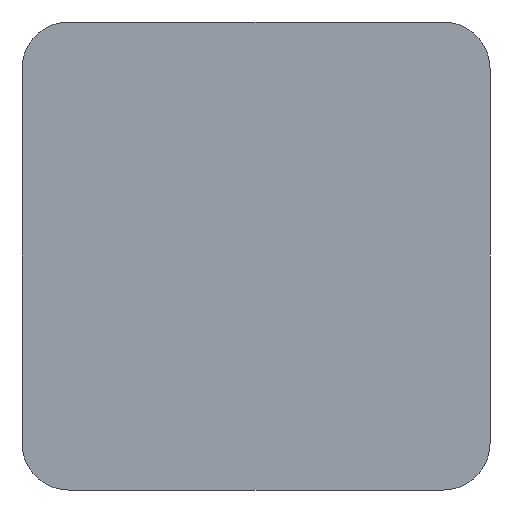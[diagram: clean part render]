
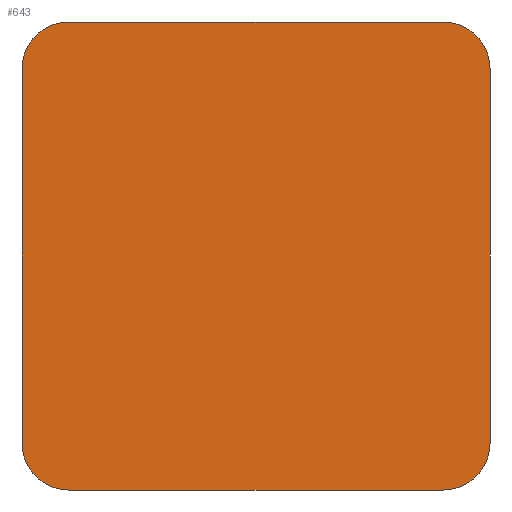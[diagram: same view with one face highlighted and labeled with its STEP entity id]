
A CAD part, front view. The second image highlights one B-rep face of the part: STEP entity #643.
In plain terms, the highlighted planar face has unit normal (0, -1, 0).
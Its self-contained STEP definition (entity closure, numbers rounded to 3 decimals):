
#22 = VERTEX_POINT('',#23);
#23 = CARTESIAN_POINT('',(25.,13.2,-20.));
#32 = PLANE('',#33);
#33 = AXIS2_PLACEMENT_3D('',#34,#35,#36);
#34 = CARTESIAN_POINT('',(25.,13.2,-20.));
#35 = DIRECTION('',(1.,-0.,0.));
#36 = DIRECTION('',(0.,0.,1.));
#44 = CYLINDRICAL_SURFACE('',#45,5.);
#45 = AXIS2_PLACEMENT_3D('',#46,#47,#48);
#46 = CARTESIAN_POINT('',(20.,13.2,-20.));
#47 = DIRECTION('',(-0.,-1.,0.));
#48 = DIRECTION('',(-1.,0.,0.));
#85 = VERTEX_POINT('',#86);
#86 = CARTESIAN_POINT('',(25.,13.2,20.));
#100 = CYLINDRICAL_SURFACE('',#101,5.);
#101 = AXIS2_PLACEMENT_3D('',#102,#103,#104);
#102 = CARTESIAN_POINT('',(20.,13.2,20.));
#103 = DIRECTION('',(-0.,-1.,0.));
#104 = DIRECTION('',(-1.,0.,0.));
#112 = EDGE_CURVE('',#22,#85,#113,.T.);
#113 = SURFACE_CURVE('',#114,(#118,#125),.PCURVE_S1.);
#114 = LINE('',#115,#116);
#115 = CARTESIAN_POINT('',(25.,13.2,0.));
#116 = VECTOR('',#117,1.);
#117 = DIRECTION('',(0.,0.,1.));
#118 = PCURVE('',#32,#119);
#119 = DEFINITIONAL_REPRESENTATION('',(#120),#124);
#120 = LINE('',#121,#122);
#121 = CARTESIAN_POINT('',(20.,0.));
#122 = VECTOR('',#123,1.);
#123 = DIRECTION('',(1.,0.));
#124 = ( GEOMETRIC_REPRESENTATION_CONTEXT(2) 
PARAMETRIC_REPRESENTATION_CONTEXT() REPRESENTATION_CONTEXT('2D SPACE',''
  ) );
#125 = PCURVE('',#126,#131);
#126 = PLANE('',#127);
#127 = AXIS2_PLACEMENT_3D('',#128,#129,#130);
#128 = CARTESIAN_POINT('',(0.,13.2,0.));
#129 = DIRECTION('',(0.,1.,0.));
#130 = DIRECTION('',(-1.,0.,0.));
#131 = DEFINITIONAL_REPRESENTATION('',(#132),#136);
#132 = LINE('',#133,#134);
#133 = CARTESIAN_POINT('',(-25.,0.));
#134 = VECTOR('',#135,1.);
#135 = DIRECTION('',(0.,1.));
#136 = ( GEOMETRIC_REPRESENTATION_CONTEXT(2) 
PARAMETRIC_REPRESENTATION_CONTEXT() REPRESENTATION_CONTEXT('2D SPACE',''
  ) );
#142 = VERTEX_POINT('',#143);
#143 = CARTESIAN_POINT('',(20.,13.2,25.));
#159 = PLANE('',#160);
#160 = AXIS2_PLACEMENT_3D('',#161,#162,#163);
#161 = CARTESIAN_POINT('',(20.,13.2,25.));
#162 = DIRECTION('',(0.,0.,1.));
#163 = DIRECTION('',(-1.,0.,0.));
#194 = EDGE_CURVE('',#142,#85,#195,.T.);
#195 = SURFACE_CURVE('',#196,(#201,#208),.PCURVE_S1.);
#196 = CIRCLE('',#197,5.);
#197 = AXIS2_PLACEMENT_3D('',#198,#199,#200);
#198 = CARTESIAN_POINT('',(20.,13.2,20.));
#199 = DIRECTION('',(0.,1.,-0.));
#200 = DIRECTION('',(-1.,0.,0.));
#201 = PCURVE('',#100,#202);
#202 = DEFINITIONAL_REPRESENTATION('',(#203),#207);
#203 = LINE('',#204,#205);
#204 = CARTESIAN_POINT('',(-0.,0.));
#205 = VECTOR('',#206,1.);
#206 = DIRECTION('',(-1.,0.));
#207 = ( GEOMETRIC_REPRESENTATION_CONTEXT(2) 
PARAMETRIC_REPRESENTATION_CONTEXT() REPRESENTATION_CONTEXT('2D SPACE',''
  ) );
#208 = PCURVE('',#126,#209);
#209 = DEFINITIONAL_REPRESENTATION('',(#210),#214);
#210 = CIRCLE('',#211,5.);
#211 = AXIS2_PLACEMENT_2D('',#212,#213);
#212 = CARTESIAN_POINT('',(-20.,20.));
#213 = DIRECTION('',(1.,0.));
#214 = ( GEOMETRIC_REPRESENTATION_CONTEXT(2) 
PARAMETRIC_REPRESENTATION_CONTEXT() REPRESENTATION_CONTEXT('2D SPACE',''
  ) );
#245 = VERTEX_POINT('',#246);
#246 = CARTESIAN_POINT('',(20.,13.2,-25.));
#260 = PLANE('',#261);
#261 = AXIS2_PLACEMENT_3D('',#262,#263,#264);
#262 = CARTESIAN_POINT('',(20.,13.2,-25.));
#263 = DIRECTION('',(0.,0.,1.));
#264 = DIRECTION('',(-1.,0.,0.));
#272 = EDGE_CURVE('',#22,#245,#273,.T.);
#273 = SURFACE_CURVE('',#274,(#279,#286),.PCURVE_S1.);
#274 = CIRCLE('',#275,5.);
#275 = AXIS2_PLACEMENT_3D('',#276,#277,#278);
#276 = CARTESIAN_POINT('',(20.,13.2,-20.));
#277 = DIRECTION('',(0.,1.,-0.));
#278 = DIRECTION('',(-1.,0.,0.));
#279 = PCURVE('',#44,#280);
#280 = DEFINITIONAL_REPRESENTATION('',(#281),#285);
#281 = LINE('',#282,#283);
#282 = CARTESIAN_POINT('',(-0.,0.));
#283 = VECTOR('',#284,1.);
#284 = DIRECTION('',(-1.,0.));
#285 = ( GEOMETRIC_REPRESENTATION_CONTEXT(2) 
PARAMETRIC_REPRESENTATION_CONTEXT() REPRESENTATION_CONTEXT('2D SPACE',''
  ) );
#286 = PCURVE('',#126,#287);
#287 = DEFINITIONAL_REPRESENTATION('',(#288),#292);
#288 = CIRCLE('',#289,5.);
#289 = AXIS2_PLACEMENT_2D('',#290,#291);
#290 = CARTESIAN_POINT('',(-20.,-20.));
#291 = DIRECTION('',(1.,0.));
#292 = ( GEOMETRIC_REPRESENTATION_CONTEXT(2) 
PARAMETRIC_REPRESENTATION_CONTEXT() REPRESENTATION_CONTEXT('2D SPACE',''
  ) );
#322 = VERTEX_POINT('',#323);
#323 = CARTESIAN_POINT('',(-20.,13.2,-25.));
#337 = CYLINDRICAL_SURFACE('',#338,5.);
#338 = AXIS2_PLACEMENT_3D('',#339,#340,#341);
#339 = CARTESIAN_POINT('',(-20.,13.2,-20.));
#340 = DIRECTION('',(-0.,-1.,0.));
#341 = DIRECTION('',(-1.,0.,0.));
#349 = EDGE_CURVE('',#245,#322,#350,.T.);
#350 = SURFACE_CURVE('',#351,(#355,#362),.PCURVE_S1.);
#351 = LINE('',#352,#353);
#352 = CARTESIAN_POINT('',(0.,13.2,-25.));
#353 = VECTOR('',#354,1.);
#354 = DIRECTION('',(-1.,0.,0.));
#355 = PCURVE('',#260,#356);
#356 = DEFINITIONAL_REPRESENTATION('',(#357),#361);
#357 = LINE('',#358,#359);
#358 = CARTESIAN_POINT('',(20.,0.));
#359 = VECTOR('',#360,1.);
#360 = DIRECTION('',(1.,0.));
#361 = ( GEOMETRIC_REPRESENTATION_CONTEXT(2) 
PARAMETRIC_REPRESENTATION_CONTEXT() REPRESENTATION_CONTEXT('2D SPACE',''
  ) );
#362 = PCURVE('',#126,#363);
#363 = DEFINITIONAL_REPRESENTATION('',(#364),#368);
#364 = LINE('',#365,#366);
#365 = CARTESIAN_POINT('',(0.,-25.));
#366 = VECTOR('',#367,1.);
#367 = DIRECTION('',(1.,0.));
#368 = ( GEOMETRIC_REPRESENTATION_CONTEXT(2) 
PARAMETRIC_REPRESENTATION_CONTEXT() REPRESENTATION_CONTEXT('2D SPACE',''
  ) );
#399 = VERTEX_POINT('',#400);
#400 = CARTESIAN_POINT('',(-25.,13.2,-20.));
#414 = PLANE('',#415);
#415 = AXIS2_PLACEMENT_3D('',#416,#417,#418);
#416 = CARTESIAN_POINT('',(-25.,13.2,-20.));
#417 = DIRECTION('',(1.,-0.,0.));
#418 = DIRECTION('',(0.,0.,1.));
#426 = EDGE_CURVE('',#322,#399,#427,.T.);
#427 = SURFACE_CURVE('',#428,(#433,#440),.PCURVE_S1.);
#428 = CIRCLE('',#429,5.);
#429 = AXIS2_PLACEMENT_3D('',#430,#431,#432);
#430 = CARTESIAN_POINT('',(-20.,13.2,-20.));
#431 = DIRECTION('',(0.,1.,-0.));
#432 = DIRECTION('',(-1.,0.,0.));
#433 = PCURVE('',#337,#434);
#434 = DEFINITIONAL_REPRESENTATION('',(#435),#439);
#435 = LINE('',#436,#437);
#436 = CARTESIAN_POINT('',(-0.,0.));
#437 = VECTOR('',#438,1.);
#438 = DIRECTION('',(-1.,0.));
#439 = ( GEOMETRIC_REPRESENTATION_CONTEXT(2) 
PARAMETRIC_REPRESENTATION_CONTEXT() REPRESENTATION_CONTEXT('2D SPACE',''
  ) );
#440 = PCURVE('',#126,#441);
#441 = DEFINITIONAL_REPRESENTATION('',(#442),#446);
#442 = CIRCLE('',#443,5.);
#443 = AXIS2_PLACEMENT_2D('',#444,#445);
#444 = CARTESIAN_POINT('',(20.,-20.));
#445 = DIRECTION('',(1.,0.));
#446 = ( GEOMETRIC_REPRESENTATION_CONTEXT(2) 
PARAMETRIC_REPRESENTATION_CONTEXT() REPRESENTATION_CONTEXT('2D SPACE',''
  ) );
#476 = VERTEX_POINT('',#477);
#477 = CARTESIAN_POINT('',(-25.,13.2,20.));
#491 = CYLINDRICAL_SURFACE('',#492,5.);
#492 = AXIS2_PLACEMENT_3D('',#493,#494,#495);
#493 = CARTESIAN_POINT('',(-20.,13.2,20.));
#494 = DIRECTION('',(-0.,-1.,0.));
#495 = DIRECTION('',(-1.,0.,0.));
#503 = EDGE_CURVE('',#399,#476,#504,.T.);
#504 = SURFACE_CURVE('',#505,(#509,#516),.PCURVE_S1.);
#505 = LINE('',#506,#507);
#506 = CARTESIAN_POINT('',(-25.,13.2,0.));
#507 = VECTOR('',#508,1.);
#508 = DIRECTION('',(0.,0.,1.));
#509 = PCURVE('',#414,#510);
#510 = DEFINITIONAL_REPRESENTATION('',(#511),#515);
#511 = LINE('',#512,#513);
#512 = CARTESIAN_POINT('',(20.,0.));
#513 = VECTOR('',#514,1.);
#514 = DIRECTION('',(1.,0.));
#515 = ( GEOMETRIC_REPRESENTATION_CONTEXT(2) 
PARAMETRIC_REPRESENTATION_CONTEXT() REPRESENTATION_CONTEXT('2D SPACE',''
  ) );
#516 = PCURVE('',#126,#517);
#517 = DEFINITIONAL_REPRESENTATION('',(#518),#522);
#518 = LINE('',#519,#520);
#519 = CARTESIAN_POINT('',(25.,0.));
#520 = VECTOR('',#521,1.);
#521 = DIRECTION('',(0.,1.));
#522 = ( GEOMETRIC_REPRESENTATION_CONTEXT(2) 
PARAMETRIC_REPRESENTATION_CONTEXT() REPRESENTATION_CONTEXT('2D SPACE',''
  ) );
#553 = VERTEX_POINT('',#554);
#554 = CARTESIAN_POINT('',(-20.,13.2,25.));
#575 = EDGE_CURVE('',#476,#553,#576,.T.);
#576 = SURFACE_CURVE('',#577,(#582,#589),.PCURVE_S1.);
#577 = CIRCLE('',#578,5.);
#578 = AXIS2_PLACEMENT_3D('',#579,#580,#581);
#579 = CARTESIAN_POINT('',(-20.,13.2,20.));
#580 = DIRECTION('',(0.,1.,-0.));
#581 = DIRECTION('',(-1.,0.,0.));
#582 = PCURVE('',#491,#583);
#583 = DEFINITIONAL_REPRESENTATION('',(#584),#588);
#584 = LINE('',#585,#586);
#585 = CARTESIAN_POINT('',(-0.,0.));
#586 = VECTOR('',#587,1.);
#587 = DIRECTION('',(-1.,0.));
#588 = ( GEOMETRIC_REPRESENTATION_CONTEXT(2) 
PARAMETRIC_REPRESENTATION_CONTEXT() REPRESENTATION_CONTEXT('2D SPACE',''
  ) );
#589 = PCURVE('',#126,#590);
#590 = DEFINITIONAL_REPRESENTATION('',(#591),#595);
#591 = CIRCLE('',#592,5.);
#592 = AXIS2_PLACEMENT_2D('',#593,#594);
#593 = CARTESIAN_POINT('',(20.,20.));
#594 = DIRECTION('',(1.,0.));
#595 = ( GEOMETRIC_REPRESENTATION_CONTEXT(2) 
PARAMETRIC_REPRESENTATION_CONTEXT() REPRESENTATION_CONTEXT('2D SPACE',''
  ) );
#623 = EDGE_CURVE('',#142,#553,#624,.T.);
#624 = SURFACE_CURVE('',#625,(#629,#636),.PCURVE_S1.);
#625 = LINE('',#626,#627);
#626 = CARTESIAN_POINT('',(0.,13.2,25.));
#627 = VECTOR('',#628,1.);
#628 = DIRECTION('',(-1.,0.,0.));
#629 = PCURVE('',#159,#630);
#630 = DEFINITIONAL_REPRESENTATION('',(#631),#635);
#631 = LINE('',#632,#633);
#632 = CARTESIAN_POINT('',(20.,0.));
#633 = VECTOR('',#634,1.);
#634 = DIRECTION('',(1.,0.));
#635 = ( GEOMETRIC_REPRESENTATION_CONTEXT(2) 
PARAMETRIC_REPRESENTATION_CONTEXT() REPRESENTATION_CONTEXT('2D SPACE',''
  ) );
#636 = PCURVE('',#126,#637);
#637 = DEFINITIONAL_REPRESENTATION('',(#638),#642);
#638 = LINE('',#639,#640);
#639 = CARTESIAN_POINT('',(0.,25.));
#640 = VECTOR('',#641,1.);
#641 = DIRECTION('',(1.,0.));
#642 = ( GEOMETRIC_REPRESENTATION_CONTEXT(2) 
PARAMETRIC_REPRESENTATION_CONTEXT() REPRESENTATION_CONTEXT('2D SPACE',''
  ) );
#643 = ADVANCED_FACE('',(#644),#126,.F.);
#644 = FACE_BOUND('',#645,.F.);
#645 = EDGE_LOOP('',(#646,#647,#648,#649,#650,#651,#652,#653));
#646 = ORIENTED_EDGE('',*,*,#112,.F.);
#647 = ORIENTED_EDGE('',*,*,#272,.T.);
#648 = ORIENTED_EDGE('',*,*,#349,.T.);
#649 = ORIENTED_EDGE('',*,*,#426,.T.);
#650 = ORIENTED_EDGE('',*,*,#503,.T.);
#651 = ORIENTED_EDGE('',*,*,#575,.T.);
#652 = ORIENTED_EDGE('',*,*,#623,.F.);
#653 = ORIENTED_EDGE('',*,*,#194,.T.);
